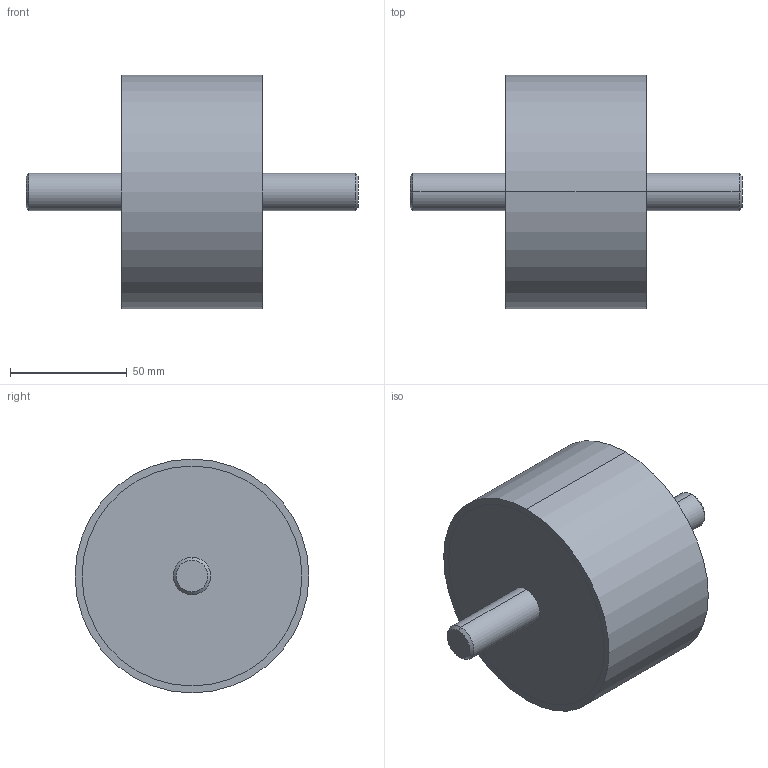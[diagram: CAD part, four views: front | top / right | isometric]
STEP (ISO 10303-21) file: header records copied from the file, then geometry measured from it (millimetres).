
FILE_DESCRIPTION (( 'STEP AP214' ), '1' );
FILE_NAME ('351-100-60-M16-SS-40.step', '2025-07-23T10:03:04', ( '' ), ( '' ), 'SwSTEP 2.0', 'SolidWorks 2022', '' );
FILE_SCHEMA (( 'AUTOMOTIVE_DESIGN' ));
Length unit declared in the file: millimetre
Products named in the file (1): 351-100-60-M16-SS-40
Bounding box: 142 x 100 x 100 mm (x, y, z)
Volume: 487516.8 mm3; surface area: 38608.5 mm2
Topology: 1 solids, 1 shells, 20 faces, 38 edges, 24 vertices
Faces by surface type: cylinder 10, plane 6, cone 4
Entity records: 636 total; most frequent: DIRECTION 104, CARTESIAN_POINT 83, ORIENTED_EDGE 76, AXIS2_PLACEMENT_3D 45, EDGE_CURVE 38, VERTEX_POINT 24, CIRCLE 24, EDGE_LOOP 24
